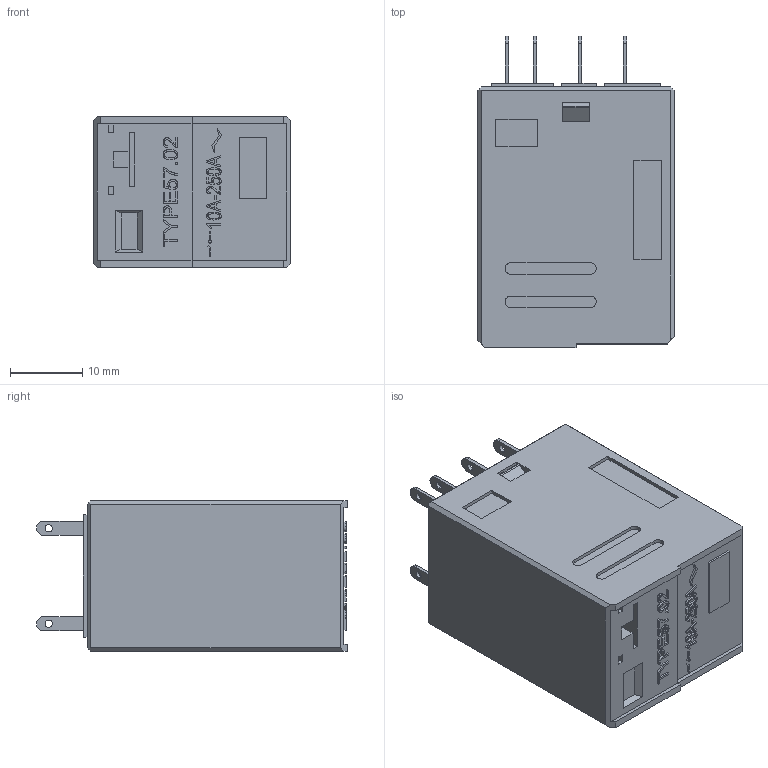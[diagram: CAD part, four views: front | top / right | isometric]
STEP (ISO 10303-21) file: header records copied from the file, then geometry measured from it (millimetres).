
FILE_DESCRIPTION((''),'2;1');
FILE_NAME('JIDIANQI','2024-01-19T14:02:44',('Administrator'),(''),'CREO PARAMETRIC BY PTC INC, 2020053','CREO PARAMETRIC BY PTC INC, 2020053','');
FILE_SCHEMA(('CONFIG_CONTROL_DESIGN'));
Length unit declared in the file: millimetre
Products named in the file (1): JIDIANQI
Bounding box: 27.2 x 43 x 20.8 mm (x, y, z)
Volume: 19891.1 mm3; surface area: 5346.9 mm2
Topology: 1 solids, 1 shells, 639 faces, 1702 edges, 1132 vertices
Faces by surface type: plane 359, extrusion 233, cylinder 45, torus 2
Entity records: 20489 total; most frequent: CARTESIAN_POINT 5298, ORIENTED_EDGE 3404, DIRECTION 2375, EDGE_CURVE 1702, VECTOR 1375, LINE 1142, VERTEX_POINT 1132, EDGE_LOOP 722
